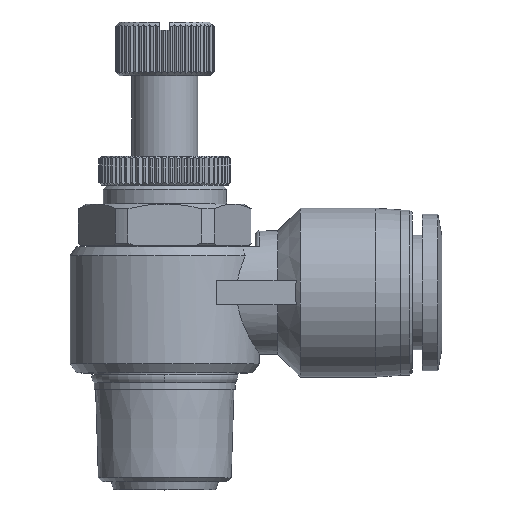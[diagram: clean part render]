
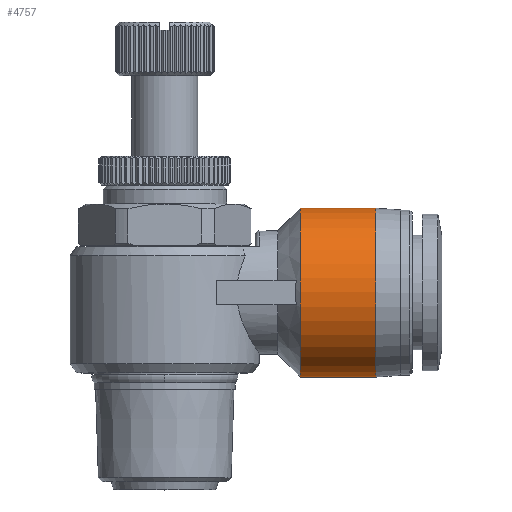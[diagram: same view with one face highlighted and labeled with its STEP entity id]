
A CAD part, top view. The second image highlights one B-rep face of the part: STEP entity #4757.
In plain terms, the highlighted cylindrical face has radius 10.25 mm (diameter 20.5 mm), a partial arc.
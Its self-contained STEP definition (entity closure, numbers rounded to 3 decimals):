
#666 = EDGE_CURVE ( 'NONE', #760, #11853, #15620, .T. ) ;
#760 = VERTEX_POINT ( 'NONE', #13563 ) ;
#943 = VECTOR ( 'NONE', #3752, 1000. ) ;
#1083 = VERTEX_POINT ( 'NONE', #9821 ) ;
#1098 = VERTEX_POINT ( 'NONE', #14975 ) ;
#1436 = AXIS2_PLACEMENT_3D ( 'NONE', #1585, #1504, #5393 ) ;
#1504 = DIRECTION ( 'NONE',  ( -1., 0., 0. ) ) ;
#1585 = CARTESIAN_POINT ( 'NONE',  ( 16.45, 22.05, 0. ) ) ;
#2145 = AXIS2_PLACEMENT_3D ( 'NONE', #11367, #2338, #7820 ) ;
#2293 = AXIS2_PLACEMENT_3D ( 'NONE', #16105, #4522, #10785 ) ;
#2338 = DIRECTION ( 'NONE',  ( -1., 0., 0. ) ) ;
#2527 = EDGE_LOOP ( 'NONE', ( #16286, #7093, #4793, #8579 ) ) ;
#2784 = CIRCLE ( 'NONE', #1436, 10.25 ) ;
#3301 = EDGE_CURVE ( 'NONE', #11853, #1083, #2784, .T. ) ;
#3752 = DIRECTION ( 'NONE',  ( -1., 0., 0. ) ) ;
#3753 = CYLINDRICAL_SURFACE ( 'NONE', #2145, 10.25 ) ;
#4522 = DIRECTION ( 'NONE',  ( -1., 0., 0. ) ) ;
#4757 = ADVANCED_FACE ( 'NONE', ( #5032 ), #3753, .T. ) ;
#4793 = ORIENTED_EDGE ( 'NONE', *, *, #3301, .F. ) ;
#5032 = FACE_OUTER_BOUND ( 'NONE', #2527, .T. ) ;
#5321 = DIRECTION ( 'NONE',  ( -1., 0., 0. ) ) ;
#5393 = DIRECTION ( 'NONE',  ( 0., -1., 0. ) ) ;
#6053 = CARTESIAN_POINT ( 'NONE',  ( 16.45, 11.8, 0. ) ) ;
#7093 = ORIENTED_EDGE ( 'NONE', *, *, #9648, .T. ) ;
#7646 = CARTESIAN_POINT ( 'NONE',  ( 21.025, 32.3, 0. ) ) ;
#7701 = VECTOR ( 'NONE', #5321, 1000. ) ;
#7819 = LINE ( 'NONE', #7646, #943 ) ;
#7820 = DIRECTION ( 'NONE',  ( 0., -1., 0. ) ) ;
#8579 = ORIENTED_EDGE ( 'NONE', *, *, #666, .F. ) ;
#9140 = CARTESIAN_POINT ( 'NONE',  ( 21.025, 11.8, 0. ) ) ;
#9648 = EDGE_CURVE ( 'NONE', #1098, #1083, #7819, .T. ) ;
#9821 = CARTESIAN_POINT ( 'NONE',  ( 16.45, 32.3, 0. ) ) ;
#10785 = DIRECTION ( 'NONE',  ( 0., -1., 0. ) ) ;
#11046 = EDGE_CURVE ( 'NONE', #760, #1098, #13352, .T. ) ;
#11367 = CARTESIAN_POINT ( 'NONE',  ( 21.025, 22.05, 0. ) ) ;
#11853 = VERTEX_POINT ( 'NONE', #6053 ) ;
#13352 = CIRCLE ( 'NONE', #2293, 10.25 ) ;
#13563 = CARTESIAN_POINT ( 'NONE',  ( 25.6, 11.8, 0. ) ) ;
#14975 = CARTESIAN_POINT ( 'NONE',  ( 25.6, 32.3, 0. ) ) ;
#15620 = LINE ( 'NONE', #9140, #7701 ) ;
#16105 = CARTESIAN_POINT ( 'NONE',  ( 25.6, 22.05, 0. ) ) ;
#16286 = ORIENTED_EDGE ( 'NONE', *, *, #11046, .T. ) ;
